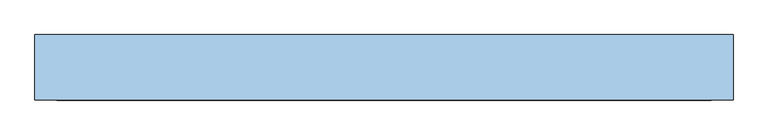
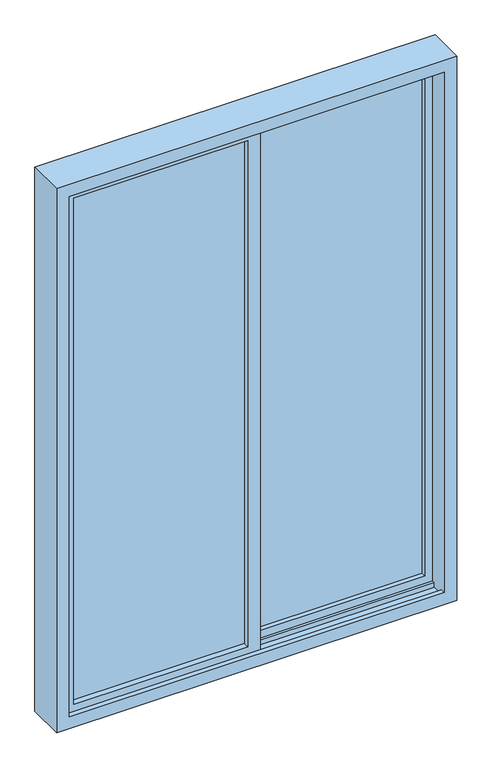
"""IFC4 building model written with IfcOpenShell, lengths in millimetres: window geometry, 두짝미서기창 : 두짝미서기창."""

from ifc_helpers import new_model, si_unit, frame, origin, place, context, project, spatial, polyline, outline, extrude, faceted_brep, source, transform, mapped, element, save


def window_edf7300f(model_context):
    return source(origin(), model_context, "Body", "SolidModel", [
        extrude(outline(polyline([(720.0, 27.5), (25.0, 27.5), (25.0, 32.5), (720.0, 32.5), (720.0, 27.5)])), frame((0.0, 0.0, 680.0), z_axis=(0.0, 0.0, 1.0), x_axis=(1.0, 0.0, 0.0)), (0.0, 0.0, 1.0), 2140.0),
        extrude(outline(polyline([(-25.0, -32.5), (-720.0, -32.5), (-720.0, -27.5), (-25.0, -27.5), (-25.0, -32.5)])), frame((0.0, 0.0, 680.0), z_axis=(0.0, 0.0, 1.0), x_axis=(1.0, 0.0, 0.0)), (0.0, 0.0, 1.0), 2140.0),
        extrude(outline(polyline([(630.0, -770.0), (630.0, 25.0), (2870.0, 25.0), (2870.0, -770.0), (630.0, -770.0)]), holes=[polyline([(2820.0, -720.0), (2820.0, -25.0), (680.0, -25.0), (680.0, -720.0), (2820.0, -720.0)])]), frame((0.0, -55.0, 0.0), z_axis=(0.0, 1.0, 0.0), x_axis=(0.0, 0.0, 1.0)), (0.0, 0.0, 1.0), 47.5),
        extrude(outline(polyline([(630.0, -25.0), (630.0, 770.0), (2870.0, 770.0), (2870.0, -25.0), (630.0, -25.0)]), holes=[polyline([(2820.0, 25.0), (2820.0, 720.0), (680.0, 720.0), (680.0, 25.0), (2820.0, 25.0)])]), frame((0.0, 7.5, 0.0), z_axis=(0.0, 1.0, 0.0), x_axis=(0.0, 0.0, 1.0)), (0.0, 0.0, 1.0), 45.0),
        faceted_brep([(-800.0, 75.0, 2900.0), (-800.0, 75.0, 600.0), (-800.0, -75.0, 600.0), (-800.0, -75.0, 2900.0), (800.0, 75.0, 2900.0), (800.0, 75.0, 600.0), (750.0, 75.0, 650.0), (750.0, 75.0, 2850.0), (-750.0, 75.0, 2850.0), (-750.0, 75.0, 650.0), (800.0, -75.0, 600.0), (800.0, -75.0, 2900.0), (-750.0, -75.0, 2850.0), (750.0, -75.0, 2850.0), (750.0, -75.0, 650.0), (-750.0, -75.0, 650.0), (750.0, 55.0, 650.0), (750.0, 55.0, 2850.0), (-750.0, 55.0, 2850.0), (-750.0, 55.0, 2870.0), (-750.0, 5.0, 2870.0), (-750.0, 5.0, 2850.0), (-750.0, -5.0, 2850.0), (-750.0, -5.0, 650.0), (-750.0, 5.0, 650.0), (-750.0, 5.0, 630.0), (-750.0, 55.0, 630.0), (-750.0, 55.0, 650.0), (750.0, -5.0, 650.0), (750.0, 5.0, 650.0), (750.0, -5.0, 630.0), (750.0, -55.0, 630.0), (750.0, -55.0, 650.0), (750.0, -55.0, 2850.0), (750.0, -55.0, 2870.0), (750.0, -5.0, 2870.0), (750.0, -5.0, 2850.0), (750.0, 5.0, 2850.0), (770.0, 5.0, 2870.0), (770.0, 5.0, 630.0), (-770.0, -5.0, 2870.0), (-770.0, -5.0, 630.0), (770.0, 55.0, 2870.0), (770.0, 55.0, 630.0), (-770.0, -55.0, 630.0), (-750.0, -55.0, 2850.0), (-750.0, -55.0, 650.0), (-770.0, -55.0, 2870.0)], [[[0, 1, 2, 3]], [[4, 5, 1, 0], [6, 7, 8, 9]], [[1, 5, 10, 2]], [[10, 11, 3, 2], [12, 13, 14, 15]], [[7, 6, 16, 17]], [[9, 8, 18, 19, 20, 21, 22, 23, 24, 25, 26, 27]], [[16, 6, 9, 27]], [[5, 4, 11, 10]], [[28, 29, 24, 23]], [[28, 30, 31, 32, 14, 13, 33, 34, 35, 36, 37, 29]], [[29, 37, 21, 20, 38, 39, 25, 24]], [[40, 41, 30, 28, 23, 22, 36, 35]], [[39, 38, 42, 43]], [[39, 43, 26, 25]], [[43, 42, 19, 18, 17, 16, 27, 26]], [[41, 44, 31, 30]], [[45, 46, 32, 31, 44, 47, 34, 33]], [[46, 15, 14, 32]], [[12, 15, 46, 45]], [[47, 44, 41, 40]], [[3, 11, 4, 0]], [[7, 17, 18, 8]], [[37, 36, 22, 21]], [[42, 38, 20, 19]], [[12, 45, 33, 13]], [[47, 40, 35, 34]]]),
    ])


if __name__ == "__main__":
    model = new_model("IFC4")
    model_context = context("Model", 3, world=origin())
    ifc_project = project(units=[si_unit("LENGTHUNIT", "METRE", prefix="MILLI")], contexts=[model_context])
    site = spatial("IfcSite", under=ifc_project)
    building = spatial("IfcBuilding", under=site)
    placement = place(None, origin())
    window_shape = window_edf7300f(model_context)
    element("IfcWindow", 1, ObjectType="두짝미서기창 : 두짝미서기창", at=placement, inside=building, context=model_context, shape_type="MappedRepresentation", body=[
        mapped(window_shape, transform((0.0, 0.0, 0.0), x_axis=(1.0, 0.0, 0.0), y_axis=(0.0, 1.0, 0.0), z_axis=(0.0, 0.0, 1.0))),
    ])
    save(model, "model.ifc")
